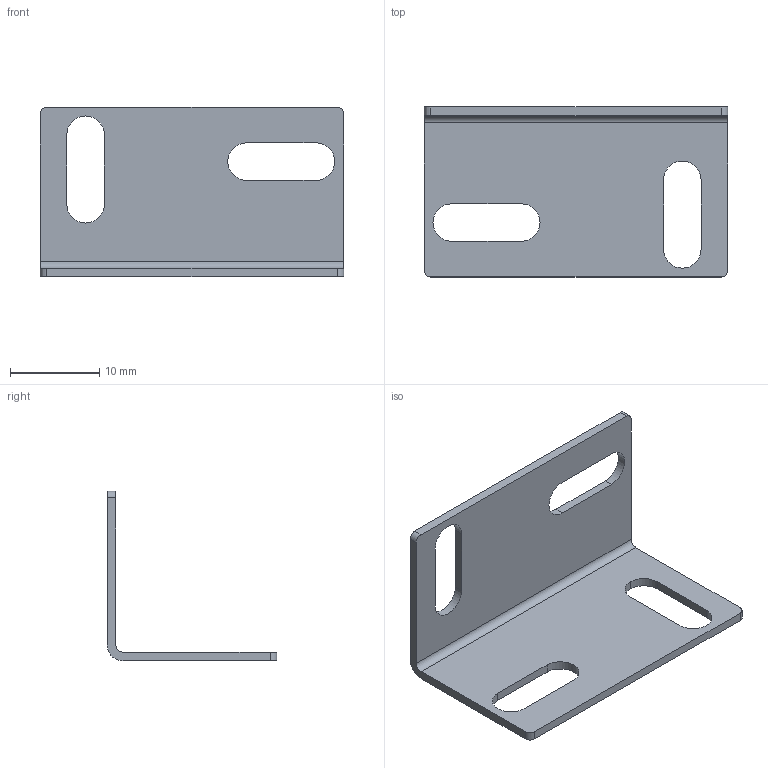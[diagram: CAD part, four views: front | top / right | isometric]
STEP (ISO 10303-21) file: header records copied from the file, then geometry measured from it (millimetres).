
FILE_DESCRIPTION (( 'STEP AP203' ), '1' );
FILE_NAME ('90-28292-005.STEP', '2013-02-16T18:27:45', ( 'Sam' ), ( 'Spade' ), 'SwSTEP 2.0', 'SolidWorks 2002296', '' );
FILE_SCHEMA (( 'CONFIG_CONTROL_DESIGN' ));
Length unit declared in the file: inch
Products named in the file (1): 90-28292-005
Bounding box: 34.01 x 19 x 19 mm (x, y, z)
Volume: 1043.3 mm3; surface area: 2359.7 mm2
Topology: 1 solids, 1 shells, 32 faces, 90 edges, 60 vertices
Faces by surface type: cylinder 16, plane 16
Entity records: 1141 total; most frequent: DIRECTION 188, CARTESIAN_POINT 183, ORIENTED_EDGE 180, EDGE_CURVE 90, AXIS2_PLACEMENT_3D 65, VERTEX_POINT 60, LINE 58, VECTOR 58
